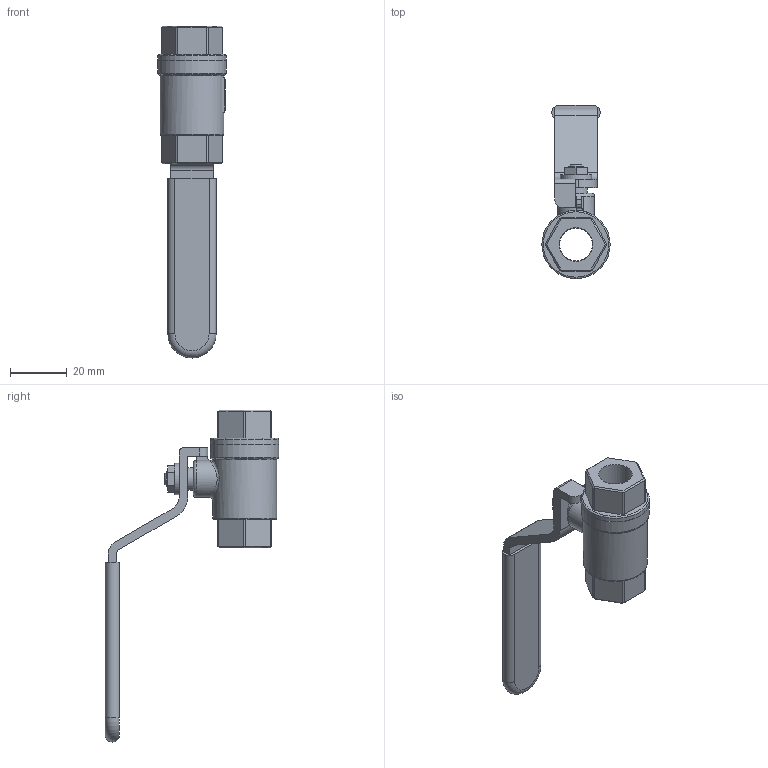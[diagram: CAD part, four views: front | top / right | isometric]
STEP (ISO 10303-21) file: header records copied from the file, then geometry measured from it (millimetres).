
FILE_DESCRIPTION( ( 'Unknown' ), '1' );
FILE_NAME( 'C:/Documents and Settings/Klaus/My Documents/Rootsi BPS 3D, Klaus/BPS 2410 ball valve, 2-pcs/STEP/BPS2410008 ball valve DN8.stp', 'Unknown', ( 'Unknown' ), ( 'Unknown' ), 'PSStep 10.1', 'Unknown', ' ' );
FILE_SCHEMA( ( 'AUTOMOTIVE_DESIGN { 1 0 10303 214 1 1 1 1 }' ) );
Length unit declared in the file: millimetre
Products named in the file (2): 1; 2
Bounding box: 24 x 61 x 116.75 mm (x, y, z)
Volume: 21411.5 mm3; surface area: 11388.1 mm2
Topology: 2 solids, 2 shells, 282 faces, 669 edges, 432 vertices
Faces by surface type: plane 196, extrusion 52, cylinder 24, torus 7, bspline 2, cone 1
Full cylindrical faces by diameter (mm): 5 x1, 8 x1, 11 x1, 11.6 x2, 11.835 x2, 13 x1, 22.5 x1, 24 x2
Entity records: 13033 total; most frequent: CARTESIAN_POINT 4869, ORIENTED_EDGE 1262, DIRECTION 947, EDGE_CURVE 631, VERTEX_POINT 422, VECTOR 365, EDGE_LOOP 355, LINE 313
